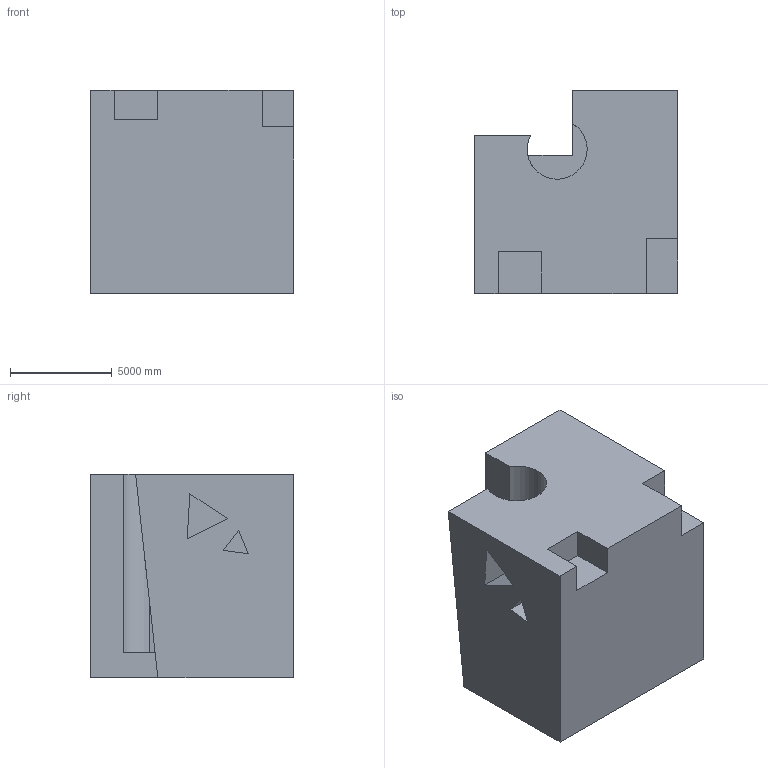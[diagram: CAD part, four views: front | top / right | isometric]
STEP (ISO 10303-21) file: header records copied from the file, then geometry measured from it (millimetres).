
FILE_DESCRIPTION (( 'STEP AP203' ), '1' );
FILE_NAME ('1565.STEP', '2022-08-18T15:50:00', ( 'user' ), ( '' ), 'SwSTEP 2.0', 'SolidWorks 2021', '' );
FILE_SCHEMA (( 'CONFIG_CONTROL_DESIGN' ));
Length unit declared in the file: centimetre
Products named in the file (1): 1565
Bounding box: 10000 x 10000 x 10000 mm (x, y, z)
Volume: 797399469827.3 mm3; surface area: 658788119.6 mm2
Topology: 1 solids, 1 shells, 27 faces, 69 edges, 46 vertices
Faces by surface type: plane 24, cylinder 3
Entity records: 885 total; most frequent: CARTESIAN_POINT 149, ORIENTED_EDGE 138, DIRECTION 128, EDGE_CURVE 69, VECTOR 62, LINE 62, VERTEX_POINT 46, AXIS2_PLACEMENT_3D 33
